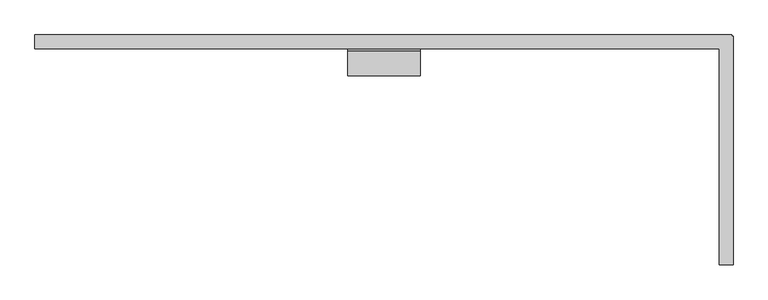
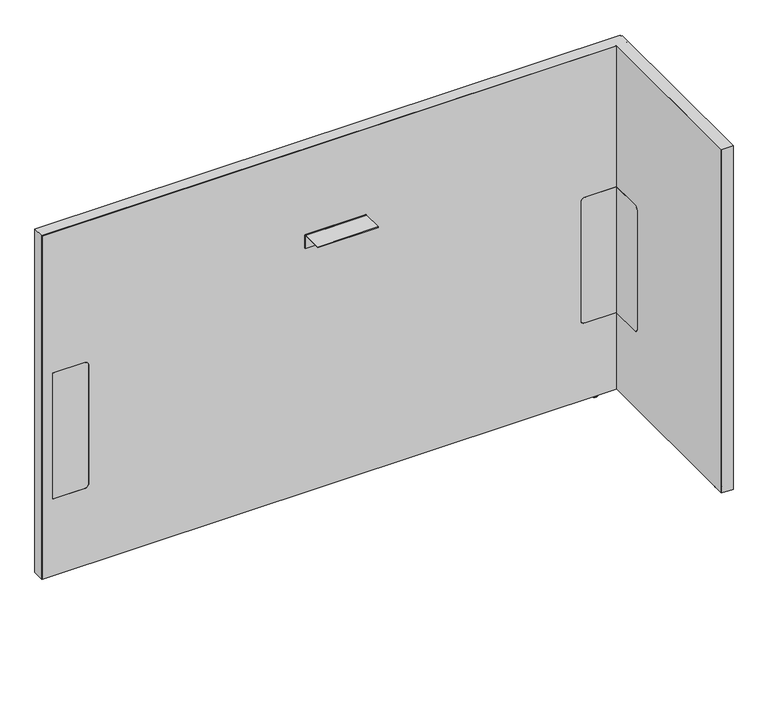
"""IFC4 building model written with IfcOpenShell, lengths in millimetres: furniture geometry, Steelcase - Answer Solution - Boundary Screen - L Return - Single Sided : 36H x 57W."""

from ifc_helpers import new_model, si_unit, point, frame, frame_2d, origin, place, context, project, spatial, polyline, circle_curve, ellipse_curve, trimmed, segment, composite_curve, outline, extrude, faceted_brep, source, transform, mapped, element, save
from ifc_brep_helpers import plane_surface, cylinder_surface, revolved_surface, advanced_brep


def furniture_fea8ede6(model_context):
    return source(origin(), model_context, "Body", "SolidModel", [
        extrude(outline(composite_curve([segment(polyline([(-109.3501471, 549.6162029), (-29.0550397, 549.6162029), (-29.0550397, 213.7762137), (-109.3501471, 213.7762137)]), True, "CONTINUOUS"), segment(trimmed(circle_curve(frame_2d((-109.3501471, 223.9362137)), 10.16), [point((-109.3501471, 213.7762137))], [point((-119.5101471, 223.9362137))], False, "CARTESIAN"), True, "CONTINUOUS"), segment(polyline([(-119.5101471, 223.9362137), (-119.5101471, 539.4562029)]), True, "CONTINUOUS"), segment(trimmed(circle_curve(frame_2d((-109.3501471, 539.4562029)), 10.16), [point((-119.5101471, 539.4562029))], [point((-109.3501471, 549.6162029))], False, "CARTESIAN"), True, "CONTINUOUS")], self_intersect=False)), frame((1677.6191891, 0.0, 0.0), z_axis=(1.0, 0.0, 0.0), x_axis=(0.0, 1.0, 0.0)), (0.0, 0.0, 1.0), 0.6401544),
        advanced_brep(
        [(1692.4672074, -448.0136072, 0.0), (1699.4216144, -448.0136072, 0.0), (1685.5128003, -448.0136072, 0.0), (1700.8762685, -448.0136072, 1.2700001), (1684.0581463, -448.0136072, 1.2700001), (1700.8762685, -448.0136072, 2.9673238), (1684.0581463, -448.0136072, 2.9673238), (1701.8427877, -448.0136072, 2.9673238), (1683.091627, -448.0136072, 2.9673238), (1701.8427877, -448.0136072, 9.9059849), (1683.091627, -448.0136072, 9.9059849), (1692.4672074, -448.0136072, 9.9059849)],
        [
            (0, 1),
            (1, 2, circle_curve(frame((1692.4672074, -448.0136072, 0.0), z_axis=(0.0, 0.0, -1.0), x_axis=(1.0, 0.0, 0.0)), 6.9544071)),
            (2, 0),
            (2, 1, circle_curve(frame((1692.4672074, -448.0136072, 0.0), z_axis=(0.0, 0.0, -1.0), x_axis=(1.0, 0.0, 0.0)), 6.9544071)),
            (1, 3, circle_curve(frame((1699.5945484, -448.0136072, 1.2700001), z_axis=(0.0, -1.0, 0.0), x_axis=(0.0, 0.0, 1.0)), 1.2817201)),
            (3, 4, circle_curve(frame((1692.4672074, -448.0136072, 1.2700001), z_axis=(0.0, 0.0, -1.0), x_axis=(1.0, 0.0, 0.0)), 8.4090611)),
            (4, 2, circle_curve(frame((1685.3398663, -448.0136072, 1.2700001), z_axis=(0.0, -1.0, 0.0), x_axis=(0.0, 0.0, 1.0)), 1.2817201)),
            (4, 3, circle_curve(frame((1692.4672074, -448.0136072, 1.2700001), z_axis=(0.0, 0.0, -1.0), x_axis=(1.0, 0.0, 0.0)), 8.4090611)),
            (3, 5),
            (5, 6, circle_curve(frame((1692.4672074, -448.0136072, 2.9673238), z_axis=(0.0, 0.0, -1.0), x_axis=(1.0, 0.0, 0.0)), 8.4090611)),
            (6, 4),
            (6, 5, circle_curve(frame((1692.4672074, -448.0136072, 2.9673238), z_axis=(0.0, 0.0, -1.0), x_axis=(1.0, 0.0, 0.0)), 8.4090611)),
            (5, 7),
            (7, 8, circle_curve(frame((1692.4672074, -448.0136072, 2.9673238), z_axis=(0.0, 0.0, -1.0), x_axis=(1.0, 0.0, 0.0)), 9.3755804)),
            (8, 6),
            (8, 7, circle_curve(frame((1692.4672074, -448.0136072, 2.9673238), z_axis=(0.0, 0.0, -1.0), x_axis=(1.0, 0.0, 0.0)), 9.3755804)),
            (7, 9),
            (9, 10, circle_curve(frame((1692.4672074, -448.0136072, 9.9059849), z_axis=(0.0, 0.0, -1.0), x_axis=(1.0, 0.0, 0.0)), 9.3755804)),
            (10, 8),
            (10, 9, circle_curve(frame((1692.4672074, -448.0136072, 9.9059849), z_axis=(0.0, 0.0, -1.0), x_axis=(1.0, 0.0, 0.0)), 9.3755804)),
            (9, 11),
            (11, 10),
        ],
        [
            plane_surface(frame((1692.4672074, -448.0136072, 0.0), z_axis=(0.0, 0.0, -1.0), x_axis=(1.0, 0.0, 0.0))),
            revolved_surface(trimmed(ellipse_curve(frame((1699.5945484, -448.0136072, 1.2700001), z_axis=(0.0, 1.0, 0.0), x_axis=(0.0, 0.0, 1.0)), 1.2817201, 1.2817201), [point((1700.8762685, -448.0136072, 1.2700001))], [point((1699.4216144, -448.0136072, 0.0))], True, "CARTESIAN"), (1692.4672074, -448.0136072, 9.9059849), (0.0, 0.0, -1.0)),
            cylinder_surface(frame((1692.4672074, -448.0136072, 9.9059849), z_axis=(0.0, 0.0, -1.0), x_axis=(1.0, 0.0, 0.0)), 8.4090611),
            plane_surface(frame((1692.4672074, -448.0136072, 2.9673238), z_axis=(0.0, 0.0, -1.0), x_axis=(1.0, 0.0, 0.0))),
            cylinder_surface(frame((1692.4672074, -448.0136072, 9.9059849), z_axis=(0.0, 0.0, -1.0), x_axis=(1.0, 0.0, 0.0)), 9.3755804),
            plane_surface(frame((1692.4672074, -448.0136072, 9.9059849), z_axis=(0.0, 0.0, 1.0), x_axis=(1.0, 0.0, 0.0))),
        ],
        [
            (0, [[1, 2, 3]]),
            (0, [[-3, 4, -1]]),
            (1, [[-2, 5, 6, 7]]),
            (1, [[-4, -7, 8, -5]]),
            (2, [[-6, 9, 10, 11]]),
            (2, [[-8, -11, 12, -9]]),
            (3, [[-10, 13, 14, 15]]),
            (3, [[-12, -15, 16, -13]]),
            (4, [[-14, 17, 18, 19]]),
            (4, [[-16, -19, 20, -17]]),
            (5, [[-18, 21, 22]]),
            (5, [[-20, -22, -21]]),
        ],
    ),
        faceted_brep([(1704.0531179, 0.0, 925.322), (1704.0531179, 0.0, 9.9059849), (1703.0621491, 0.0, 9.9059849), (1703.0621491, 0.0, 924.342118), (230.8097779, 0.0, 924.342118), (230.8097779, 0.0, 9.9059849), (229.8191891, 0.0, 9.9059849), (229.8191891, 0.0, 925.322), (229.8191891, -29.6898332, 925.322), (229.8191891, -29.6898332, 9.9059849), (230.8097779, -29.6898332, 9.9059849), (230.8097779, -29.6898332, 924.342118), (1677.6191891, -29.6898332, 924.342118), (1677.6191891, -29.6898332, 925.322), (1703.0621491, -29.6898332, 924.342118), (1703.0621491, -29.6898332, 9.9059849), (1704.0531179, -29.6898332, 9.9059849), (1704.0531179, -29.6898332, 924.342118), (1704.0531179, -3.2625916, 925.322), (1704.0531179, -3.2625916, 9.9059849), (1704.0531179, -4.252647, 9.9059849), (1704.0531179, -4.252647, 924.342118), (1707.3152256, -3.2625916, 9.9059849), (1707.3152256, -4.252647, 9.9059849), (1703.0621491, -4.252647, 9.9059849), (1677.6191891, -4.252647, 9.9059849), (1677.6191891, -3.2625916, 9.9059849), (1703.0621491, -3.2625916, 9.9059849), (1677.6191891, -486.8898332, 925.322), (1707.3152256, -486.8898332, 925.322), (1707.3152256, -3.2625916, 925.322), (1703.0621491, -3.2625916, 924.342118), (1703.0621491, -4.252647, 924.342118), (1677.6191891, -3.2625916, 924.342118), (1677.6191891, -4.252647, 924.342118), (1707.3152256, -4.252647, 924.342118), (1707.3152256, -485.899196, 924.342118), (1677.6191891, -485.899196, 924.342118), (1677.6191891, -485.899196, 9.9059849), (1677.6191891, -486.8898332, 9.9059849), (1707.3152256, -486.8898332, 9.9059849), (1707.3152256, -485.899196, 9.9059849)], [[[0, 1, 2, 3, 4, 5, 6, 7]], [[8, 9, 10, 11, 12, 13]], [[14, 15, 16, 17]], [[1, 0, 18, 19]], [[17, 16, 20, 21]], [[2, 1, 19, 22, 23, 20, 16, 15, 24, 25, 26, 27]], [[7, 6, 9, 8]], [[0, 7, 8, 13, 28, 29, 30, 18]], [[3, 2, 27, 31]], [[15, 14, 32, 24]], [[4, 3, 31, 33, 34, 32, 14, 17, 21, 35, 36, 37, 12, 11]], [[5, 4, 11, 10]], [[6, 5, 10, 9]], [[26, 25, 34, 33]], [[37, 38, 39, 28, 13, 12]], [[29, 40, 41, 36, 35, 23, 22, 30]], [[27, 26, 33, 31]], [[30, 22, 19, 18]], [[34, 25, 24, 32]], [[23, 35, 21, 20]], [[38, 37, 36, 41]], [[39, 38, 41, 40]], [[28, 39, 40, 29]]]),
        extrude(outline(composite_curve([segment(polyline([(-86.8398151, 696.4680019), (-86.8398151, 698.5), (-34.9450855, 698.5)]), True, "CONTINUOUS"), segment(trimmed(circle_curve(frame_2d((-34.9450855, 693.2447477)), 5.2552523), [point((-34.9450855, 698.5))], [point((-29.6898332, 693.2447477))], False, "CARTESIAN"), True, "CONTINUOUS"), segment(polyline([(-29.6898332, 693.2447477), (-29.6898332, 660.4), (-31.7218162, 660.4), (-31.7218162, 693.0058743)]), True, "CONTINUOUS"), segment(trimmed(circle_curve(frame_2d((-35.1839438, 693.0058743)), 3.4621276), [point((-31.7218162, 693.0058743))], [point((-35.1839438, 696.4680019))], True, "CARTESIAN"), True, "CONTINUOUS"), segment(polyline([(-35.1839438, 696.4680019), (-86.8398151, 696.4680019)]), True, "CONTINUOUS")], self_intersect=False)), frame((892.3685899, 0.0, 0.0), z_axis=(1.0, 0.0, 0.0), x_axis=(0.0, 1.0, 0.0)), (0.0, 0.0, 1.0), 152.4000969),
        advanced_brep(
        [(1630.1246853, -23.7588726, 9.9059849), (1630.1246853, -5.9309607, 9.9059849), (1630.1246853, -14.8449166, 9.9059849), (1630.1246853, -23.7588726, 2.9673238), (1630.1246853, -5.9309607, 2.9673238), (1630.1246853, -22.7915354, 2.9673238), (1630.1246853, -6.8982978, 2.9673238), (1630.1246853, -22.7915354, 1.6569081), (1630.1246853, -6.8982978, 1.6569081), (1630.1246853, -21.1346274, 0.0), (1630.1246853, -8.5552059, 0.0), (1630.1246853, -14.8449166, 0.0)],
        [
            (0, 1, circle_curve(frame((1630.1246853, -14.8449166, 9.9059849), z_axis=(0.0, 0.0, 1.0), x_axis=(0.0, 1.0, 0.0)), 8.913956)),
            (1, 2),
            (2, 0),
            (1, 0, circle_curve(frame((1630.1246853, -14.8449166, 9.9059849), z_axis=(0.0, 0.0, 1.0), x_axis=(0.0, 1.0, 0.0)), 8.913956)),
            (3, 4, circle_curve(frame((1630.1246853, -14.8449166, 2.9673238), z_axis=(0.0, 0.0, 1.0), x_axis=(0.0, 1.0, 0.0)), 8.913956)),
            (4, 1),
            (0, 3),
            (4, 3, circle_curve(frame((1630.1246853, -14.8449166, 2.9673238), z_axis=(0.0, 0.0, 1.0), x_axis=(0.0, 1.0, 0.0)), 8.913956)),
            (5, 6, circle_curve(frame((1630.1246853, -14.8449166, 2.9673238), z_axis=(0.0, 0.0, 1.0), x_axis=(0.0, 1.0, 0.0)), 7.9466188)),
            (6, 4),
            (3, 5),
            (6, 5, circle_curve(frame((1630.1246853, -14.8449166, 2.9673238), z_axis=(0.0, 0.0, 1.0), x_axis=(0.0, 1.0, 0.0)), 7.9466188)),
            (7, 8, circle_curve(frame((1630.1246853, -14.8449166, 1.6569081), z_axis=(0.0, 0.0, 1.0), x_axis=(0.0, 1.0, 0.0)), 7.9466188)),
            (8, 6),
            (5, 7),
            (8, 7, circle_curve(frame((1630.1246853, -14.8449166, 1.6569081), z_axis=(0.0, 0.0, 1.0), x_axis=(0.0, 1.0, 0.0)), 7.9466188)),
            (9, 10, circle_curve(frame((1630.1246853, -14.8449166, 0.0), z_axis=(0.0, 0.0, 1.0), x_axis=(0.0, 1.0, 0.0)), 6.2897107)),
            (10, 8, circle_curve(frame((1630.1246853, -8.5552059, 1.6569081), z_axis=(1.0, 0.0, 0.0), x_axis=(0.0, 1.0, 0.0)), 1.6569081)),
            (7, 9, circle_curve(frame((1630.1246853, -21.1346274, 1.6569081), z_axis=(1.0, 0.0, 0.0), x_axis=(0.0, -1.0, 0.0)), 1.6569081)),
            (10, 9, circle_curve(frame((1630.1246853, -14.8449166, 0.0), z_axis=(0.0, 0.0, 1.0), x_axis=(0.0, 1.0, 0.0)), 6.2897107)),
            (11, 10),
            (9, 11),
        ],
        [
            plane_surface(frame((1630.1246853, -14.8449166, 9.9059849), z_axis=(0.0, 0.0, 1.0), x_axis=(0.0, 1.0, 0.0))),
            cylinder_surface(frame((1630.1246853, -14.8449166, 9.9059849), z_axis=(0.0, 0.0, -1.0), x_axis=(0.0, 1.0, 0.0)), 8.913956),
            plane_surface(frame((1630.1246853, -14.8449166, 2.9673238), z_axis=(0.0, 0.0, -1.0), x_axis=(0.0, 1.0, 0.0))),
            cylinder_surface(frame((1630.1246853, -14.8449166, 9.9059849), z_axis=(0.0, 0.0, -1.0), x_axis=(0.0, 1.0, 0.0)), 7.9466188),
            revolved_surface(trimmed(ellipse_curve(frame((1630.1246853, -8.5552059, 1.6569081), z_axis=(-1.0, 0.0, 0.0), x_axis=(0.0, 1.0, 0.0)), 1.6569081, 1.6569081), [point((1630.1246853, -6.8982978, 1.6569081))], [point((1630.1246853, -8.5552059, 0.0))], True, "CARTESIAN"), (1630.1246853, -14.8449166, 9.9059849), (0.0, 0.0, -1.0)),
            plane_surface(frame((1630.1246853, -14.8449166, 0.0), z_axis=(0.0, 0.0, -1.0), x_axis=(0.0, 1.0, 0.0))),
        ],
        [
            (0, [[1, 2, 3]]),
            (0, [[4, -3, -2]]),
            (1, [[5, 6, -1, 7]]),
            (1, [[8, -7, -4, -6]]),
            (2, [[9, 10, -5, 11]]),
            (2, [[12, -11, -8, -10]]),
            (3, [[13, 14, -9, 15]]),
            (3, [[16, -15, -12, -14]]),
            (4, [[17, 18, -13, 19]]),
            (4, [[20, -19, -16, -18]]),
            (5, [[21, -17, 22]]),
            (5, [[-22, -20, -21]]),
        ],
    ),
        advanced_brep(
        [(230.8097779, 0.0, 924.342118), (1703.0621491, 0.0, 924.342118), (1703.0621491, 0.0, 9.9059849), (230.8097779, 0.0, 9.9059849), (347.9483813, -29.0550397, 539.4562029), (337.7883813, -29.0550397, 549.6162029), (258.1344836, -29.0550397, 549.6162029), (258.1344836, -29.0550397, 213.7762137), (337.7883813, -29.0550397, 213.7762137), (347.9483813, -29.0550397, 223.9362137), (1678.2593435, -29.0550397, 213.7762137), (1678.2593435, -29.0550397, 549.6162029), (1597.7109268, -29.0550397, 549.6162029), (1587.5509268, -29.0550397, 539.4562029), (1587.5509268, -29.0550397, 223.9362137), (1597.7109268, -29.0550397, 213.7762137), (230.8097779, -29.6898332, 924.342118), (230.8097779, -29.6898332, 9.9059849), (1677.6191891, -29.6898332, 9.9059849), (1677.6191891, -29.6898332, 213.7762137), (1597.7109268, -29.6898332, 213.7762137), (1587.5509268, -29.6898332, 223.9362137), (1587.5509268, -29.6898332, 539.4562029), (1597.7109268, -29.6898332, 549.6162029), (1677.6191891, -29.6898332, 549.6162029), (1677.6191891, -29.6898332, 924.342118), (337.7883813, -29.6898332, 549.6162029), (347.9483813, -29.6898332, 539.4562029), (347.9483813, -29.6898332, 223.9362137), (337.7883813, -29.6898332, 213.7762137), (258.1344836, -29.6898332, 213.7762137), (258.1344836, -29.6898332, 549.6162029), (1703.0621491, -4.252647, 9.9059849), (1707.3152256, -4.252647, 9.9059849), (1707.3152256, -485.899196, 9.9059849), (1677.6191891, -485.899196, 9.9059849), (1703.0621491, -4.252647, 924.342118), (1677.6191891, -485.899196, 924.342118), (1707.3152256, -485.899196, 924.342118), (1707.3152256, -4.252647, 924.342118), (1678.2593435, -109.3501471, 549.6162029), (1677.6191891, -109.3501471, 549.6162029), (1678.2593435, -109.3501471, 213.7762137), (1678.2593435, -119.5101471, 223.9362137), (1678.2593435, -119.5101471, 539.4562029), (1677.6191891, -109.3501471, 213.7762137), (1677.6191891, -119.5101471, 539.4562029), (1677.6191891, -119.5101471, 223.9362137)],
        [
            (0, 1),
            (1, 2),
            (2, 3),
            (3, 0),
            (4, 5, circle_curve(frame((337.7883813, -29.0550397, 539.4562029), z_axis=(0.0, -1.0, 0.0), x_axis=(0.0, 0.0, 1.0)), 10.16)),
            (5, 6),
            (6, 7),
            (7, 8),
            (8, 9, circle_curve(frame((337.7883813, -29.0550397, 223.9362137), z_axis=(0.0, -1.0, 0.0), x_axis=(0.0, 0.0, 1.0)), 10.16)),
            (9, 4),
            (10, 11),
            (11, 12),
            (12, 13, circle_curve(frame((1597.7109268, -29.0550397, 539.4562029), z_axis=(0.0, -1.0, 0.0), x_axis=(0.0, 0.0, 1.0)), 10.16)),
            (13, 14),
            (14, 15, circle_curve(frame((1597.7109268, -29.0550397, 223.9362137), z_axis=(0.0, -1.0, 0.0), x_axis=(0.0, 0.0, 1.0)), 10.16)),
            (15, 10),
            (16, 17),
            (17, 18),
            (18, 19),
            (19, 20),
            (20, 21, circle_curve(frame((1597.7109268, -29.6898332, 223.9362137), z_axis=(0.0, 1.0, 0.0), x_axis=(0.0, 0.0, 1.0)), 10.16)),
            (21, 22),
            (22, 23, circle_curve(frame((1597.7109268, -29.6898332, 539.4562029), z_axis=(0.0, 1.0, 0.0), x_axis=(0.0, 0.0, 1.0)), 10.16)),
            (23, 24),
            (24, 25),
            (25, 16),
            (26, 27, circle_curve(frame((337.7883813, -29.6898332, 539.4562029), z_axis=(0.0, 1.0, 0.0), x_axis=(0.0, 0.0, 1.0)), 10.16)),
            (27, 28),
            (28, 29, circle_curve(frame((337.7883813, -29.6898332, 223.9362137), z_axis=(0.0, 1.0, 0.0), x_axis=(0.0, 0.0, 1.0)), 10.16)),
            (29, 30),
            (30, 31),
            (31, 26),
            (16, 0),
            (3, 17),
            (2, 32),
            (32, 33),
            (33, 34),
            (34, 35),
            (35, 18),
            (1, 36),
            (36, 32),
            (25, 37),
            (37, 38),
            (38, 39),
            (39, 36),
            (26, 5),
            (4, 27),
            (9, 28),
            (8, 29),
            (7, 30),
            (6, 31),
            (11, 40),
            (40, 41),
            (41, 24),
            (23, 12),
            (42, 43, circle_curve(frame((1678.2593435, -109.3501471, 223.9362137), z_axis=(-1.0, 0.0, 0.0), x_axis=(0.0, 1.0, 0.0)), 10.16)),
            (43, 44),
            (44, 40, circle_curve(frame((1678.2593435, -109.3501471, 539.4562029), z_axis=(-1.0, 0.0, 0.0), x_axis=(0.0, 1.0, 0.0)), 10.16)),
            (10, 42),
            (15, 20),
            (19, 45),
            (45, 42),
            (14, 21),
            (13, 22),
            (35, 37),
            (41, 46, circle_curve(frame((1677.6191891, -109.3501471, 539.4562029), z_axis=(1.0, 0.0, 0.0), x_axis=(0.0, 1.0, 0.0)), 10.16)),
            (46, 47),
            (47, 45, circle_curve(frame((1677.6191891, -109.3501471, 223.9362137), z_axis=(1.0, 0.0, 0.0), x_axis=(0.0, 1.0, 0.0)), 10.16)),
            (38, 34),
            (33, 39),
            (44, 46),
            (43, 47),
        ],
        [
            plane_surface(frame((347.9483813, 0.0, 549.6162029), z_axis=(0.0, 1.0, 0.0), x_axis=(0.0, 0.0, -1.0))),
            plane_surface(frame((347.9483813, -29.0550397, 549.6162029), z_axis=(0.0, -1.0, 0.0), x_axis=(0.0, 0.0, 1.0))),
            plane_surface(frame((1703.0621491, -29.6898332, 924.342118), z_axis=(0.0, -1.0, 0.0), x_axis=(-1.0, 0.0, 0.0))),
            plane_surface(frame((230.8097779, 0.0, 9.9059849), z_axis=(-1.0, 0.0, 0.0), x_axis=(0.0, -1.0, 0.0))),
            plane_surface(frame((1703.0621491, 0.0, 9.9059849), z_axis=(0.0, 0.0, -1.0), x_axis=(0.0, -1.0, 0.0))),
            plane_surface(frame((1703.0621491, 0.0, 924.342118), z_axis=(1.0, 0.0, 0.0), x_axis=(0.0, -1.0, 0.0))),
            plane_surface(frame((230.8097779, 0.0, 924.342118), z_axis=(0.0, 0.0, 1.0), x_axis=(0.0, -1.0, 0.0))),
            revolved_surface(polyline([(337.7883813, -29.6898332, 549.6162029), (337.7883813, -29.0550397, 549.6162029)]), (337.7883813, -29.6898332, 539.4562029), (0.0, -1.0, 0.0)),
            plane_surface(frame((347.9483813, 0.0, 223.9362137), z_axis=(-1.0, 0.0, 0.0), x_axis=(0.0, -1.0, 0.0))),
            revolved_surface(polyline([(337.7883813, -29.6898332, 234.0962137), (337.7883813, -29.0550397, 234.0962137)]), (337.7883813, -29.6898332, 223.9362137), (0.0, -1.0, 0.0)),
            plane_surface(frame((258.1344836, 0.0, 213.7762137), z_axis=(0.0, 0.0, 1.0), x_axis=(0.0, -1.0, 0.0))),
            plane_surface(frame((258.1344836, 0.0, 549.6162029), z_axis=(1.0, 0.0, 0.0), x_axis=(0.0, -1.0, 0.0))),
            plane_surface(frame((337.7883813, 0.0, 549.6162029), z_axis=(0.0, 0.0, -1.0), x_axis=(0.0, -1.0, 0.0))),
            plane_surface(frame((1678.2593435, 0.0, 549.6162029), z_axis=(0.0, 0.0, -1.0), x_axis=(0.0, -1.0, 0.0))),
            plane_surface(frame((1678.2593435, 0.0, 213.7762137), z_axis=(-1.0, 0.0, 0.0), x_axis=(0.0, -1.0, 0.0))),
            plane_surface(frame((1597.7109268, 0.0, 213.7762137), z_axis=(0.0, 0.0, 1.0), x_axis=(0.0, -1.0, 0.0))),
            revolved_surface(polyline([(1597.7109268, -29.6898332, 234.0962137), (1597.7109268, -29.0550397, 234.0962137)]), (1597.7109268, -29.6898332, 223.9362137), (0.0, -1.0, 0.0)),
            plane_surface(frame((1587.5509268, 0.0, 539.4562029), z_axis=(1.0, 0.0, 0.0), x_axis=(0.0, -1.0, 0.0))),
            revolved_surface(polyline([(1597.7109268, -29.6898332, 549.6162029), (1597.7109268, -29.0550397, 549.6162029)]), (1597.7109268, -29.6898332, 539.4562029), (0.0, -1.0, 0.0)),
            plane_surface(frame((1677.6191891, -485.899196, 924.342118), z_axis=(-1.0, 0.0, 0.0), x_axis=(0.0, 0.0, 1.0))),
            plane_surface(frame((1707.3152256, -485.899196, 924.342118), z_axis=(1.0, 0.0, 0.0), x_axis=(0.0, 0.0, -1.0))),
            plane_surface(frame((1707.3152256, -4.252647, 9.9059849), z_axis=(0.0, 1.0, 0.0), x_axis=(-1.0, 0.0, 0.0))),
            plane_surface(frame((1707.3152256, -485.899196, 924.342118), z_axis=(0.0, -1.0, 0.0), x_axis=(-1.0, 0.0, 0.0))),
            revolved_surface(polyline([(1677.6191891, -99.1901471, 539.4562029), (1678.2593435, -99.1901471, 539.4562029)]), (-340.6902705, -109.3501471, 539.4562029), (-1.0, 0.0, 0.0)),
            plane_surface(frame((1707.3152256, -119.5101471, 223.9362137), z_axis=(0.0, 1.0, 0.0), x_axis=(-1.0, 0.0, 0.0))),
            revolved_surface(polyline([(1677.6191891, -99.1901471, 223.9362137), (1678.2593435, -99.1901471, 223.9362137)]), (-340.6902705, -109.3501471, 223.9362137), (-1.0, 0.0, 0.0)),
        ],
        [
            (0, [[1, 2, 3, 4]]),
            (1, [[5, 6, 7, 8, 9, 10]]),
            (1, [[11, 12, 13, 14, 15, 16]]),
            (2, [[17, 18, 19, 20, 21, 22, 23, 24, 25, 26], [27, 28, 29, 30, 31, 32]]),
            (3, [[-17, 33, -4, 34]]),
            (4, [[-3, 35, 36, 37, 38, 39, -18, -34]]),
            (5, [[-2, 40, 41, -35]]),
            (6, [[-1, -33, -26, 42, 43, 44, 45, -40]]),
            (7, [[-27, 46, -5, 47]]),
            (8, [[-28, -47, -10, 48]]),
            (9, [[-29, -48, -9, 49]]),
            (10, [[-30, -49, -8, 50]]),
            (11, [[-31, -50, -7, 51]]),
            (12, [[-32, -51, -6, -46]]),
            (13, [[52, 53, 54, -24, 55, -12]]),
            (14, [[56, 57, 58, -52, -11, 59]]),
            (15, [[-59, -16, 60, -20, 61, 62]]),
            (16, [[-21, -60, -15, 63]]),
            (17, [[-22, -63, -14, 64]]),
            (18, [[-23, -64, -13, -55]]),
            (19, [[65, -42, -25, -54, 66, 67, 68, -61, -19, -39]]),
            (20, [[69, -37, 70, -44]]),
            (21, [[-70, -36, -41, -45]]),
            (22, [[-65, -38, -69, -43]]),
            (23, [[-66, -53, -58, 71]]),
            (24, [[-67, -71, -57, 72]]),
            (25, [[-68, -72, -56, -62]]),
        ],
    ),
        extrude(outline(composite_curve([segment(polyline([(549.6162029, 337.7883813), (549.6162029, 258.1344836), (213.7762137, 258.1344836), (213.7762137, 337.7883813)]), True, "CONTINUOUS"), segment(trimmed(circle_curve(frame_2d((223.9362137, 337.7883813)), 10.16), [point((213.7762137, 337.7883813))], [point((223.9362137, 347.9483813))], False, "CARTESIAN"), True, "CONTINUOUS"), segment(polyline([(223.9362137, 347.9483813), (539.4562029, 347.9483813)]), True, "CONTINUOUS"), segment(trimmed(circle_curve(frame_2d((539.4562029, 337.7883813)), 10.16), [point((539.4562029, 347.9483813))], [point((549.6162029, 337.7883813))], False, "CARTESIAN"), True, "CONTINUOUS")], self_intersect=False)), frame((0.0, -29.6898332, 0.0), z_axis=(0.0, 1.0, 0.0), x_axis=(0.0, 0.0, 1.0)), (0.0, 0.0, 1.0), 0.6347935),
        extrude(outline(composite_curve([segment(trimmed(circle_curve(frame_2d((539.4562029, 1597.7109268)), 10.16), [point((549.6162029, 1597.7109268))], [point((539.4562029, 1587.5509268))], False, "CARTESIAN"), True, "CONTINUOUS"), segment(polyline([(539.4562029, 1587.5509268), (223.9362137, 1587.5509268)]), True, "CONTINUOUS"), segment(trimmed(circle_curve(frame_2d((223.9362137, 1597.7109268)), 10.16), [point((223.9362137, 1587.5509268))], [point((213.7762137, 1597.7109268))], False, "CARTESIAN"), True, "CONTINUOUS"), segment(polyline([(213.7762137, 1597.7109268), (213.7762137, 1677.6191891), (549.6162029, 1677.6191891), (549.6162029, 1597.7109268)]), True, "CONTINUOUS")], self_intersect=False)), frame((0.0, -29.6898332, 0.0), z_axis=(0.0, 1.0, 0.0), x_axis=(0.0, 0.0, 1.0)), (0.0, 0.0, 1.0), 0.6347935),
    ])


if __name__ == "__main__":
    model = new_model("IFC4")
    model_context = context("Model", 3, world=origin())
    ifc_project = project(units=[si_unit("LENGTHUNIT", "METRE", prefix="MILLI")], contexts=[model_context])
    site = spatial("IfcSite", under=ifc_project)
    building = spatial("IfcBuilding", under=site)
    placement = place(None, origin())
    furniture_shape = furniture_fea8ede6(model_context)
    element("IfcFurniture", 1, ObjectType="Steelcase - Answer Solution - Boundary Screen - L Return - Single Sided : 36H x 57W", at=placement, inside=building, context=model_context, shape_type="MappedRepresentation", body=[
        mapped(furniture_shape, transform((0.0, 0.0, 0.0), x_axis=(1.0, 0.0, 0.0), y_axis=(0.0, 1.0, 0.0), z_axis=(0.0, 0.0, 1.0))),
    ])
    save(model, "model.ifc")
